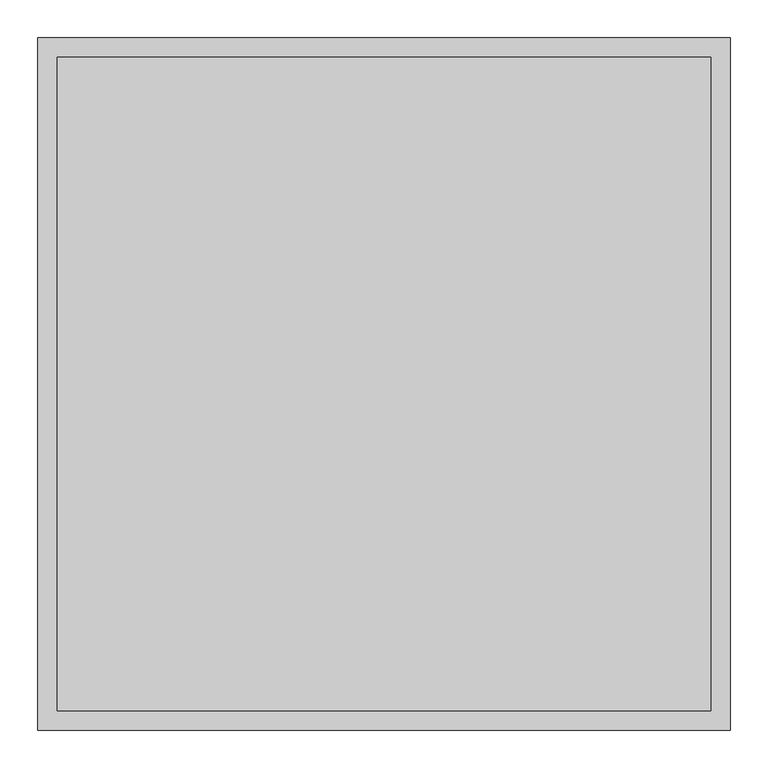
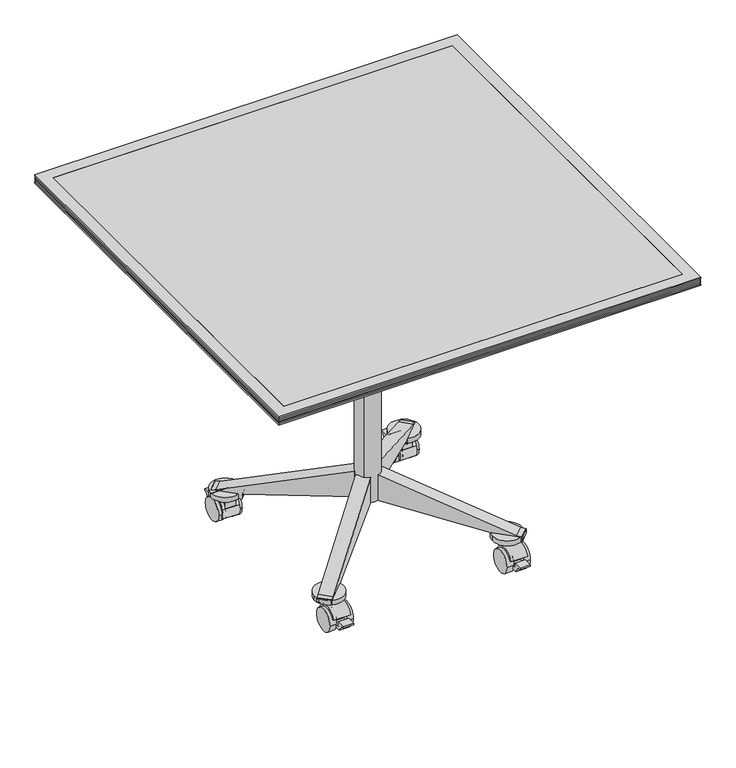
"""IFC4 building model written with IfcOpenShell, lengths in millimetres: furniture geometry, Coalesse_AM_Table_Conference_Ballet_Square : 36L x 36W - Flip/Caster."""

from ifc_helpers import new_model, si_unit, point, frame, frame_2d, origin, place, context, project, spatial, polyline, circle_curve, trimmed, segment, composite_curve, outline, extrude, faceted_brep, source, transform, mapped, element, save


def furniture_f732efc8(model_context):
    return source(origin(), model_context, "Body", "SolidModel", [
        extrude(outline(composite_curve([segment(polyline([(-182.4395783, 14.7931869), (-185.3508649, 16.4051117)]), True, "CONTINUOUS"), segment(trimmed(circle_curve(frame_2d((-208.7663144, 24.9907393)), 24.9398531), [point((-185.3508649, 16.4051117))], [point((-231.2540436, 35.7749086))], True, "CARTESIAN"), True, "CONTINUOUS"), segment(polyline([(-231.2540436, 35.7749086), (-234.6796249, 36.8601197)]), True, "CONTINUOUS"), segment(trimmed(circle_curve(frame_2d((-209.4353674, 26.7032164)), 27.2109394), [point((-234.6796249, 36.8601197))], [point((-197.8152878, 51.3082762))], False, "CARTESIAN"), True, "CONTINUOUS"), segment(trimmed(circle_curve(frame_2d((-207.8788336, 25.8930561)), 27.3351124), [point((-197.8152878, 51.3082762))], [point((-182.4395783, 35.8956886))], False, "CARTESIAN"), True, "CONTINUOUS"), segment(trimmed(circle_curve(frame_2d((-209.2741105, 25.3444377)), 28.8343721), [point((-182.4395783, 35.8956886))], [point((-182.4395783, 14.7931869))], False, "CARTESIAN"), True, "CONTINUOUS")], self_intersect=False)), frame((174.0984431, 0.0, 0.0), z_axis=(1.0, 0.0, 0.0), x_axis=(0.0, 1.0, 0.0)), (0.0, 0.0, 1.0), 36.0286787),
        extrude(outline(composite_curve([segment(trimmed(circle_curve(frame_2d((-208.7663144, 24.9907393)), 24.9398531), [point((-233.7061675, 24.9907393))], [point((-183.8264612, 24.9907393))], False, "CARTESIAN"), True, "CONTINUOUS"), segment(trimmed(circle_curve(frame_2d((-208.7663144, 24.9907393)), 24.9398531), [point((-183.8264612, 24.9907393))], [point((-233.7061675, 24.9907393))], False, "CARTESIAN"), True, "CONTINUOUS")], self_intersect=False)), frame((166.2968952, 0.0, 0.0), z_axis=(1.0, 0.0, 0.0), x_axis=(0.0, 1.0, 0.0)), (0.0, 0.0, 1.0), 14.6120158),
        extrude(outline(composite_curve([segment(polyline([(-197.8152878, 63.5225277), (-182.4395783, 63.5225277), (-182.4395783, 35.8956886)]), True, "CONTINUOUS"), segment(trimmed(circle_curve(frame_2d((-209.2741105, 25.3444377)), 28.8343721), [point((-182.4395783, 35.8956886))], [point((-182.4395783, 14.7931869))], False, "CARTESIAN"), True, "CONTINUOUS"), segment(polyline([(-182.4395783, 14.7931869), (-195.904393, 22.2484025), (-198.9802659, 16.6930892)]), True, "CONTINUOUS"), segment(trimmed(circle_curve(frame_2d((-208.672695, 25.0010719)), 12.7658043), [point((-198.9802659, 16.6930892))], [point((-218.9375545, 17.4117096))], False, "CARTESIAN"), True, "CONTINUOUS"), segment(polyline([(-218.9375545, 17.4117096), (-244.706152, 17.4117096), (-253.6776476, 31.7691038), (-260.4030844, 31.7691038), (-260.4030844, 35.1210973), (-241.3530844, 35.1210973), (-241.3530844, 25.0010719), (-222.0637731, 25.0010719), (-219.8001714, 32.1463658), (-234.6796249, 36.8601197)]), True, "CONTINUOUS"), segment(trimmed(circle_curve(frame_2d((-209.4353674, 26.7032164)), 27.2109394), [point((-234.6796249, 36.8601197))], [point((-197.8152878, 51.3082762))], False, "CARTESIAN"), True, "CONTINUOUS"), segment(polyline([(-197.8152878, 51.3082762), (-197.8152878, 63.5225277)]), True, "CONTINUOUS")], self_intersect=False)), frame((179.2633359, 0.0, 0.0), z_axis=(1.0, 0.0, 0.0), x_axis=(0.0, 1.0, 0.0)), (0.0, 0.0, 1.0), 22.3970625),
        extrude(outline(composite_curve([segment(trimmed(circle_curve(frame_2d((-208.7663144, 24.9907393)), 24.9398531), [point((-233.7061675, 24.9907393))], [point((-183.8264612, 24.9907393))], False, "CARTESIAN"), True, "CONTINUOUS"), segment(trimmed(circle_curve(frame_2d((-208.7663144, 24.9907393)), 24.9398531), [point((-183.8264612, 24.9907393))], [point((-233.7061675, 24.9907393))], False, "CARTESIAN"), True, "CONTINUOUS")], self_intersect=False)), frame((203.3322938, 0.0, 0.0), z_axis=(1.0, 0.0, 0.0), x_axis=(0.0, 1.0, 0.0)), (0.0, 0.0, 1.0), 13.7103424),
        extrude(outline(composite_curve([segment(polyline([(-182.4395783, 14.7931869), (-185.3508649, 16.4051117)]), True, "CONTINUOUS"), segment(trimmed(circle_curve(frame_2d((-208.7663144, 24.9907393)), 24.9398531), [point((-185.3508649, 16.4051117))], [point((-231.2540436, 35.7749086))], True, "CARTESIAN"), True, "CONTINUOUS"), segment(polyline([(-231.2540436, 35.7749086), (-234.6796249, 36.8601197)]), True, "CONTINUOUS"), segment(trimmed(circle_curve(frame_2d((-209.4353674, 26.7032164)), 27.2109394), [point((-234.6796249, 36.8601197))], [point((-197.8152878, 51.3082762))], False, "CARTESIAN"), True, "CONTINUOUS"), segment(trimmed(circle_curve(frame_2d((-207.8788336, 25.8930561)), 27.3351124), [point((-197.8152878, 51.3082762))], [point((-182.4395783, 35.8956886))], False, "CARTESIAN"), True, "CONTINUOUS"), segment(trimmed(circle_curve(frame_2d((-209.2741105, 25.3444377)), 28.8343721), [point((-182.4395783, 35.8956886))], [point((-182.4395783, 14.7931869))], False, "CARTESIAN"), True, "CONTINUOUS")], self_intersect=False)), frame((-209.7070094, 0.0, 0.0), z_axis=(1.0, 0.0, 0.0), x_axis=(0.0, 1.0, 0.0)), (0.0, 0.0, 1.0), 36.86129),
        extrude(outline(composite_curve([segment(trimmed(circle_curve(frame_2d((-208.7663144, 24.9907393)), 24.9398531), [point((-233.7061675, 24.9907393))], [point((-183.8264612, 24.9907393))], False, "CARTESIAN"), True, "CONTINUOUS"), segment(trimmed(circle_curve(frame_2d((-208.7663144, 24.9907393)), 24.9398531), [point((-183.8264612, 24.9907393))], [point((-233.7061675, 24.9907393))], False, "CARTESIAN"), True, "CONTINUOUS")], self_intersect=False)), frame((-180.908911, 0.0, 0.0), z_axis=(1.0, 0.0, 0.0), x_axis=(0.0, 1.0, 0.0)), (0.0, 0.0, 1.0), 14.6120158),
        extrude(outline(composite_curve([segment(polyline([(-197.8152878, 63.5225277), (-182.4395783, 63.5225277), (-182.4395783, 35.8956886)]), True, "CONTINUOUS"), segment(trimmed(circle_curve(frame_2d((-209.2741105, 25.3444377)), 28.8343721), [point((-182.4395783, 35.8956886))], [point((-182.4395783, 14.7931869))], False, "CARTESIAN"), True, "CONTINUOUS"), segment(polyline([(-182.4395783, 14.7931869), (-195.904393, 22.2484025), (-198.9802659, 16.6930892)]), True, "CONTINUOUS"), segment(trimmed(circle_curve(frame_2d((-208.672695, 25.0010719)), 12.7658043), [point((-198.9802659, 16.6930892))], [point((-218.9375545, 17.4117096))], False, "CARTESIAN"), True, "CONTINUOUS"), segment(polyline([(-218.9375545, 17.4117096), (-244.706152, 17.4117096), (-253.6776476, 31.7691038), (-260.4030844, 31.7691038), (-260.4030844, 35.1210973), (-241.3530844, 35.1210973), (-241.3530844, 25.0010719), (-222.0637731, 25.0010719), (-219.8001714, 32.1463658), (-234.6796249, 36.8601197)]), True, "CONTINUOUS"), segment(trimmed(circle_curve(frame_2d((-209.4353674, 26.7032164)), 27.2109394), [point((-234.6796249, 36.8601197))], [point((-197.8152878, 51.3082762))], False, "CARTESIAN"), True, "CONTINUOUS"), segment(polyline([(-197.8152878, 51.3082762), (-197.8152878, 63.5225277)]), True, "CONTINUOUS")], self_intersect=False)), frame((-203.3322938, 0.0, 0.0), z_axis=(1.0, 0.0, 0.0), x_axis=(0.0, 1.0, 0.0)), (0.0, 0.0, 1.0), 22.4233828),
        extrude(outline(composite_curve([segment(trimmed(circle_curve(frame_2d((-208.7663144, 24.9907393)), 24.9398531), [point((-233.7061675, 24.9907393))], [point((-183.8264612, 24.9907393))], False, "CARTESIAN"), True, "CONTINUOUS"), segment(trimmed(circle_curve(frame_2d((-208.7663144, 24.9907393)), 24.9398531), [point((-183.8264612, 24.9907393))], [point((-233.7061675, 24.9907393))], False, "CARTESIAN"), True, "CONTINUOUS")], self_intersect=False)), frame((-217.0426362, 0.0, 0.0), z_axis=(1.0, 0.0, 0.0), x_axis=(0.0, 1.0, 0.0)), (0.0, 0.0, 1.0), 13.7103424),
        extrude(outline(composite_curve([segment(trimmed(circle_curve(frame_2d((1.04e-05, -1.04e-05)), 25.3999999), [point((-17.9605018, -17.9605225))], [point((17.9605225, 17.9605018))], False, "CARTESIAN"), True, "CONTINUOUS"), segment(trimmed(circle_curve(frame_2d((1.04e-05, -1.04e-05)), 25.3999999), [point((17.9605225, 17.9605018))], [point((-17.9605018, -17.9605225))], False, "CARTESIAN"), True, "CONTINUOUS")], self_intersect=False)), frame((0.0, 0.0, 607.6784119), z_axis=(0.0, 0.0, 1.0), x_axis=(1.0, 0.0, 0.0)), (0.0, 0.0, 1.0), 50.3081696),
        extrude(outline(composite_curve([segment(trimmed(circle_curve(frame_2d((209.2741105, 25.3444377)), 28.8343721), [point((182.4395783, 14.7931869))], [point((182.4395783, 35.8956886))], False, "CARTESIAN"), True, "CONTINUOUS"), segment(trimmed(circle_curve(frame_2d((207.8788336, 25.8930561)), 27.3351124), [point((182.4395783, 35.8956886))], [point((197.8152878, 51.3082762))], False, "CARTESIAN"), True, "CONTINUOUS"), segment(trimmed(circle_curve(frame_2d((209.4353674, 26.7032164)), 27.2109394), [point((197.8152878, 51.3082762))], [point((234.6796249, 36.8601197))], False, "CARTESIAN"), True, "CONTINUOUS"), segment(polyline([(234.6796249, 36.8601197), (231.2540436, 35.7749086)]), True, "CONTINUOUS"), segment(trimmed(circle_curve(frame_2d((208.7663144, 24.9907393)), 24.9398531), [point((231.2540436, 35.7749086))], [point((185.3508649, 16.4051117))], True, "CARTESIAN"), True, "CONTINUOUS"), segment(polyline([(185.3508649, 16.4051117), (182.4395783, 14.7931869)]), True, "CONTINUOUS")], self_intersect=False)), frame((174.0984431, 0.0, 0.0), z_axis=(1.0, 0.0, 0.0), x_axis=(0.0, 1.0, 0.0)), (0.0, 0.0, 1.0), 36.0286787),
        extrude(outline(composite_curve([segment(trimmed(circle_curve(frame_2d((208.7663144, 24.9907393)), 24.9398531), [point((233.7061675, 24.9907393))], [point((183.8264612, 24.9907393))], False, "CARTESIAN"), True, "CONTINUOUS"), segment(trimmed(circle_curve(frame_2d((208.7663144, 24.9907393)), 24.9398531), [point((183.8264612, 24.9907393))], [point((233.7061675, 24.9907393))], False, "CARTESIAN"), True, "CONTINUOUS")], self_intersect=False)), frame((166.2968952, 0.0, 0.0), z_axis=(1.0, 0.0, 0.0), x_axis=(0.0, 1.0, 0.0)), (0.0, 0.0, 1.0), 14.6120158),
        extrude(outline(composite_curve([segment(polyline([(197.8152878, 63.5225277), (197.8152878, 51.3082762)]), True, "CONTINUOUS"), segment(trimmed(circle_curve(frame_2d((209.4353674, 26.7032164)), 27.2109394), [point((197.8152878, 51.3082762))], [point((234.6796249, 36.8601197))], False, "CARTESIAN"), True, "CONTINUOUS"), segment(polyline([(234.6796249, 36.8601197), (219.8001714, 32.1463658), (222.0637731, 25.0010719), (241.3530844, 25.0010719), (241.3530844, 35.1210973), (260.4030844, 35.1210973), (260.4030844, 31.7691038), (253.6776476, 31.7691038), (244.706152, 17.4117096), (218.9375545, 17.4117096)]), True, "CONTINUOUS"), segment(trimmed(circle_curve(frame_2d((208.672695, 25.0010719)), 12.7658043), [point((218.9375545, 17.4117096))], [point((198.9802659, 16.6930892))], False, "CARTESIAN"), True, "CONTINUOUS"), segment(polyline([(198.9802659, 16.6930892), (195.904393, 22.2484025), (182.4395783, 14.7931869)]), True, "CONTINUOUS"), segment(trimmed(circle_curve(frame_2d((209.2741105, 25.3444377)), 28.8343721), [point((182.4395783, 14.7931869))], [point((182.4395783, 35.8956886))], False, "CARTESIAN"), True, "CONTINUOUS"), segment(polyline([(182.4395783, 35.8956886), (182.4395783, 63.5225277), (197.8152878, 63.5225277)]), True, "CONTINUOUS")], self_intersect=False)), frame((179.2633359, 0.0, 0.0), z_axis=(1.0, 0.0, 0.0), x_axis=(0.0, 1.0, 0.0)), (0.0, 0.0, 1.0), 22.3970625),
        extrude(outline(composite_curve([segment(trimmed(circle_curve(frame_2d((208.7663144, 24.9907393)), 24.9398531), [point((233.7061675, 24.9907393))], [point((183.8264612, 24.9907393))], False, "CARTESIAN"), True, "CONTINUOUS"), segment(trimmed(circle_curve(frame_2d((208.7663144, 24.9907393)), 24.9398531), [point((183.8264612, 24.9907393))], [point((233.7061675, 24.9907393))], False, "CARTESIAN"), True, "CONTINUOUS")], self_intersect=False)), frame((203.3322938, 0.0, 0.0), z_axis=(1.0, 0.0, 0.0), x_axis=(0.0, 1.0, 0.0)), (0.0, 0.0, 1.0), 13.7103424),
        extrude(outline(composite_curve([segment(trimmed(circle_curve(frame_2d((209.2741105, 25.3444377)), 28.8343721), [point((182.4395783, 14.7931869))], [point((182.4395783, 35.8956886))], False, "CARTESIAN"), True, "CONTINUOUS"), segment(trimmed(circle_curve(frame_2d((207.8788336, 25.8930561)), 27.3351124), [point((182.4395783, 35.8956886))], [point((197.8152878, 51.3082762))], False, "CARTESIAN"), True, "CONTINUOUS"), segment(trimmed(circle_curve(frame_2d((209.4353674, 26.7032164)), 27.2109394), [point((197.8152878, 51.3082762))], [point((234.6796249, 36.8601197))], False, "CARTESIAN"), True, "CONTINUOUS"), segment(polyline([(234.6796249, 36.8601197), (231.2540436, 35.7749086)]), True, "CONTINUOUS"), segment(trimmed(circle_curve(frame_2d((208.7663144, 24.9907393)), 24.9398531), [point((231.2540436, 35.7749086))], [point((185.3508649, 16.4051117))], True, "CARTESIAN"), True, "CONTINUOUS"), segment(polyline([(185.3508649, 16.4051117), (182.4395783, 14.7931869)]), True, "CONTINUOUS")], self_intersect=False)), frame((-209.7070094, 0.0, 0.0), z_axis=(1.0, 0.0, 0.0), x_axis=(0.0, 1.0, 0.0)), (0.0, 0.0, 1.0), 36.86129),
        extrude(outline(composite_curve([segment(trimmed(circle_curve(frame_2d((208.7663144, 24.9907393)), 24.9398531), [point((233.7061675, 24.9907393))], [point((183.8264612, 24.9907393))], False, "CARTESIAN"), True, "CONTINUOUS"), segment(trimmed(circle_curve(frame_2d((208.7663144, 24.9907393)), 24.9398531), [point((183.8264612, 24.9907393))], [point((233.7061675, 24.9907393))], False, "CARTESIAN"), True, "CONTINUOUS")], self_intersect=False)), frame((-180.908911, 0.0, 0.0), z_axis=(1.0, 0.0, 0.0), x_axis=(0.0, 1.0, 0.0)), (0.0, 0.0, 1.0), 14.6120158),
        extrude(outline(composite_curve([segment(polyline([(197.8152878, 63.5225277), (197.8152878, 51.3082762)]), True, "CONTINUOUS"), segment(trimmed(circle_curve(frame_2d((209.4353674, 26.7032164)), 27.2109394), [point((197.8152878, 51.3082762))], [point((234.6796249, 36.8601197))], False, "CARTESIAN"), True, "CONTINUOUS"), segment(polyline([(234.6796249, 36.8601197), (219.8001714, 32.1463658), (222.0637731, 25.0010719), (241.3530844, 25.0010719), (241.3530844, 35.1210973), (260.4030844, 35.1210973), (260.4030844, 31.7691038), (253.6776476, 31.7691038), (244.706152, 17.4117096), (218.9375545, 17.4117096)]), True, "CONTINUOUS"), segment(trimmed(circle_curve(frame_2d((208.672695, 25.0010719)), 12.7658043), [point((218.9375545, 17.4117096))], [point((198.9802659, 16.6930892))], False, "CARTESIAN"), True, "CONTINUOUS"), segment(polyline([(198.9802659, 16.6930892), (195.904393, 22.2484025), (182.4395783, 14.7931869)]), True, "CONTINUOUS"), segment(trimmed(circle_curve(frame_2d((209.2741105, 25.3444377)), 28.8343721), [point((182.4395783, 14.7931869))], [point((182.4395783, 35.8956886))], False, "CARTESIAN"), True, "CONTINUOUS"), segment(polyline([(182.4395783, 35.8956886), (182.4395783, 63.5225277), (197.8152878, 63.5225277)]), True, "CONTINUOUS")], self_intersect=False)), frame((-203.3322938, 0.0, 0.0), z_axis=(1.0, 0.0, 0.0), x_axis=(0.0, 1.0, 0.0)), (0.0, 0.0, 1.0), 22.4233828),
        extrude(outline(composite_curve([segment(trimmed(circle_curve(frame_2d((208.7663144, 24.9907393)), 24.9398531), [point((233.7061675, 24.9907393))], [point((183.8264612, 24.9907393))], False, "CARTESIAN"), True, "CONTINUOUS"), segment(trimmed(circle_curve(frame_2d((208.7663144, 24.9907393)), 24.9398531), [point((183.8264612, 24.9907393))], [point((233.7061675, 24.9907393))], False, "CARTESIAN"), True, "CONTINUOUS")], self_intersect=False)), frame((-217.0426362, 0.0, 0.0), z_axis=(1.0, 0.0, 0.0), x_axis=(0.0, 1.0, 0.0)), (0.0, 0.0, 1.0), 13.7103424),
        extrude(outline(polyline([(158.4621346, 17.0356733), (169.8930132, 8.1048922), (169.8930132, 0.8331186), (159.98106, -9.0788345), (38.5409959, -9.0788345), (28.462086, 1.0000754), (28.462086, 7.6856478), (37.8121114, 17.0356733), (158.4621346, 17.0356733)])), frame((0.0, 0.0, 687.2912849), z_axis=(0.0, 0.0, 1.0), x_axis=(1.0, 0.0, 0.0)), (0.0, 0.0, 1.0), 6.5168503),
        extrude(outline(composite_curve([segment(trimmed(circle_curve(frame_2d((669.1002966, -84.2761543)), 7.8975043), [point((669.1002966, -92.1736586))], [point((669.1002966, -76.3786501))], False, "CARTESIAN"), True, "CONTINUOUS"), segment(trimmed(circle_curve(frame_2d((669.1002966, -84.2761543)), 7.8975043), [point((669.1002966, -76.3786501))], [point((669.1002966, -92.1736586))], False, "CARTESIAN"), True, "CONTINUOUS")], self_intersect=False)), frame((0.0, -102.0227757, 0.0), z_axis=(0.0, 1.0, 0.0), x_axis=(0.0, 0.0, 1.0)), (0.0, 0.0, 1.0), 207.3263413),
        extrude(outline(polyline([(77.1619615, -102.0227757), (72.7168839, -102.0227757), (72.7168839, 105.3035655), (77.1619615, 105.3035655), (77.1619615, -102.0227757)])), frame((0.0, 0.0, 657.9865814), z_axis=(0.0, 0.0, 1.0), x_axis=(1.0, 0.0, 0.0)), (0.0, 0.0, 1.0), 25.6753708),
        extrude(outline(polyline([(105.3035655, 652.7037643), (101.8153095, 652.7037643), (101.8153095, 700.0114872), (-94.3997971, 700.0114872), (-94.3997971, 652.7037643), (-97.8879563, 652.7037643), (-97.8879563, 704.85), (105.3035655, 704.85), (105.3035655, 652.7037643)])), frame((-111.7977681, 0.0, 0.0), z_axis=(1.0, 0.0, 0.0), x_axis=(0.0, 1.0, 0.0)), (0.0, 0.0, 1.0), 220.3746008),
        extrude(outline(polyline([(-91.8596905, 688.7419716), (99.2752998, 688.7419716), (99.2752998, 652.7037643), (94.1954742, 652.7037643), (94.1954742, 683.6619522), (-86.7795016, 683.6619522), (-86.7795016, 652.7037643), (-91.8596905, 652.7037643), (-91.8596905, 688.7419716)])), frame((-111.7977681, 0.0, 0.0), z_axis=(1.0, 0.0, 0.0), x_axis=(0.0, 1.0, 0.0)), (0.0, 0.0, 1.0), 220.3746008),
        extrude(outline(composite_curve([segment(trimmed(circle_curve(frame_2d((-194.715793, 197.3207687)), 31.75), [point((-226.465793, 197.3207687))], [point((-162.965793, 197.3207687))], False, "CARTESIAN"), True, "CONTINUOUS"), segment(trimmed(circle_curve(frame_2d((-194.715793, 197.3207687)), 31.75), [point((-162.965793, 197.3207687))], [point((-226.465793, 197.3207687))], False, "CARTESIAN"), True, "CONTINUOUS")], self_intersect=False)), frame((0.0, 0.0, 62.0397209), z_axis=(0.0, 0.0, 1.0), x_axis=(1.0, 0.0, 0.0)), (0.0, 0.0, 1.0), 10.7840801),
        extrude(outline(composite_curve([segment(trimmed(circle_curve(frame_2d((191.7194605, 196.5270187)), 31.75), [point((159.9694605, 196.5270187))], [point((223.4694605, 196.5270187))], False, "CARTESIAN"), True, "CONTINUOUS"), segment(trimmed(circle_curve(frame_2d((191.7194605, 196.5270187)), 31.75), [point((223.4694605, 196.5270187))], [point((159.9694605, 196.5270187))], False, "CARTESIAN"), True, "CONTINUOUS")], self_intersect=False)), frame((0.0, 0.0, 62.0397209), z_axis=(0.0, 0.0, 1.0), x_axis=(1.0, 0.0, 0.0)), (0.0, 0.0, 1.0), 10.7840801),
        extrude(outline(composite_curve([segment(trimmed(circle_curve(frame_2d((-194.715793, -191.2787692)), 31.75), [point((-226.465793, -191.2787692))], [point((-162.965793, -191.2787692))], False, "CARTESIAN"), True, "CONTINUOUS"), segment(trimmed(circle_curve(frame_2d((-194.715793, -191.2787692)), 31.75), [point((-162.965793, -191.2787692))], [point((-226.465793, -191.2787692))], False, "CARTESIAN"), True, "CONTINUOUS")], self_intersect=False)), frame((0.0, 0.0, 62.0397209), z_axis=(0.0, 0.0, 1.0), x_axis=(1.0, 0.0, 0.0)), (0.0, 0.0, 1.0), 10.7840801),
        extrude(outline(composite_curve([segment(trimmed(circle_curve(frame_2d((191.7194605, -190.4850192)), 31.75), [point((159.9694605, -190.4850192))], [point((223.4694605, -190.4850192))], False, "CARTESIAN"), True, "CONTINUOUS"), segment(trimmed(circle_curve(frame_2d((191.7194605, -190.4850192)), 31.75), [point((223.4694605, -190.4850192))], [point((159.9694605, -190.4850192))], False, "CARTESIAN"), True, "CONTINUOUS")], self_intersect=False)), frame((0.0, 0.0, 62.0397209), z_axis=(0.0, 0.0, 1.0), x_axis=(1.0, 0.0, 0.0)), (0.0, 0.0, 1.0), 10.7840801),
        extrude(outline(composite_curve([segment(polyline([(-57.749273, 0.0), (0.0, 0.0), (-90.9931074, -269.8641919), (-92.3030079, -279.1846177)]), True, "CONTINUOUS"), segment(trimmed(circle_curve(frame_2d((-93.9206951, -278.9572666)), 1.6335852), [point((-92.3030079, -279.1846177))], [point((-93.8206014, -280.5877823))], False, "CARTESIAN"), True, "CONTINUOUS"), segment(trimmed(circle_curve(frame_2d((-95.8523928, -247.4901147)), 33.1599725), [point((-93.8206014, -280.5877823))], [point((-101.682402, -280.1335639))], False, "CARTESIAN"), True, "CONTINUOUS"), segment(trimmed(circle_curve(frame_2d((-101.2796868, -277.8786768)), 2.2905666), [point((-101.682402, -280.1335639))], [point((-103.5674671, -277.7657306))], False, "CARTESIAN"), True, "CONTINUOUS"), segment(polyline([(-103.5674671, -277.7657306), (-103.5674671, -222.4322812)]), True, "CONTINUOUS"), segment(trimmed(circle_curve(frame_2d((-100.6154331, -221.9840334)), 2.9858719), [point((-103.5674671, -222.4322812))], [point((-100.2998684, -219.0148838))], False, "CARTESIAN"), True, "CONTINUOUS"), segment(trimmed(circle_curve(frame_2d((-98.3053249, -200.2482144)), 18.872363), [point((-100.2998684, -219.0148838))], [point((-94.5016021, -218.7332835))], True, "CARTESIAN"), True, "CONTINUOUS"), segment(trimmed(circle_curve(frame_2d((-95.1495986, -215.5841949)), 3.2150673), [point((-94.5016021, -218.7332835))], [point((-91.9741141, -216.0871422))], True, "CARTESIAN"), True, "CONTINUOUS"), segment(polyline([(-91.9741141, -216.0871422), (-57.749273, 0.0)]), True, "CONTINUOUS")], self_intersect=False)), frame((-23.5273141, 7.7834997, 165.607188), z_axis=(0.7071067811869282, 0.707106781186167, 0.0), x_axis=(0.0, 0.0, 1.0)), (0.0, 0.0, 1.0), 29.2174476),
        extrude(outline(composite_curve([segment(polyline([(-57.749273, 44.2801775), (-91.9741141, 260.3673198)]), True, "CONTINUOUS"), segment(trimmed(circle_curve(frame_2d((-95.1495986, 259.8643724)), 3.2150673), [point((-91.9741141, 260.3673198))], [point((-94.5016021, 263.013461))], True, "CARTESIAN"), True, "CONTINUOUS"), segment(trimmed(circle_curve(frame_2d((-98.3053249, 244.5283919)), 18.872363), [point((-94.5016021, 263.013461))], [point((-100.2998684, 263.2950613))], True, "CARTESIAN"), True, "CONTINUOUS"), segment(trimmed(circle_curve(frame_2d((-100.6154331, 266.2642109)), 2.9858719), [point((-100.2998684, 263.2950613))], [point((-103.5674671, 266.7124587))], False, "CARTESIAN"), True, "CONTINUOUS"), segment(polyline([(-103.5674671, 266.7124587), (-103.5674671, 322.0459081)]), True, "CONTINUOUS"), segment(trimmed(circle_curve(frame_2d((-101.2796868, 322.1588543)), 2.2905666), [point((-103.5674671, 322.0459081))], [point((-101.682402, 324.4137415))], False, "CARTESIAN"), True, "CONTINUOUS"), segment(trimmed(circle_curve(frame_2d((-95.8523928, 291.7702923)), 33.1599725), [point((-101.682402, 324.4137415))], [point((-93.8206014, 324.8679598))], False, "CARTESIAN"), True, "CONTINUOUS"), segment(trimmed(circle_curve(frame_2d((-93.9206951, 323.2374442)), 1.6335852), [point((-93.8206014, 324.8679598))], [point((-92.3030079, 323.4647953))], False, "CARTESIAN"), True, "CONTINUOUS"), segment(polyline([(-92.3030079, 323.4647953), (-90.9931074, 314.1443694), (0.0, 44.2801775), (-57.749273, 44.2801775)]), True, "CONTINUOUS")], self_intersect=False)), frame((-23.5273141, 7.7834997, 165.607188), z_axis=(0.7071067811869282, 0.707106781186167, 0.0), x_axis=(0.0, 0.0, 1.0)), (0.0, 0.0, 1.0), 29.2174476),
        extrude(outline(composite_curve([segment(polyline([(-57.749273, 0.0), (0.0, 0.0), (-90.9931074, -269.8641919), (-92.3030079, -279.1846177)]), True, "CONTINUOUS"), segment(trimmed(circle_curve(frame_2d((-93.9206951, -278.9572666)), 1.6335852), [point((-92.3030079, -279.1846177))], [point((-93.8206014, -280.5877823))], False, "CARTESIAN"), True, "CONTINUOUS"), segment(trimmed(circle_curve(frame_2d((-95.8523928, -247.4901147)), 33.1599725), [point((-93.8206014, -280.5877823))], [point((-101.682402, -280.1335639))], False, "CARTESIAN"), True, "CONTINUOUS"), segment(trimmed(circle_curve(frame_2d((-101.2796868, -277.8786768)), 2.2905666), [point((-101.682402, -280.1335639))], [point((-103.5674671, -277.7657306))], False, "CARTESIAN"), True, "CONTINUOUS"), segment(polyline([(-103.5674671, -277.7657306), (-103.5674671, -222.4322812)]), True, "CONTINUOUS"), segment(trimmed(circle_curve(frame_2d((-100.6154331, -221.9840334)), 2.9858719), [point((-103.5674671, -222.4322812))], [point((-100.2998684, -219.0148838))], False, "CARTESIAN"), True, "CONTINUOUS"), segment(trimmed(circle_curve(frame_2d((-98.3053249, -200.2482144)), 18.872363), [point((-100.2998684, -219.0148838))], [point((-94.5016021, -218.7332835))], True, "CARTESIAN"), True, "CONTINUOUS"), segment(trimmed(circle_curve(frame_2d((-95.1495986, -215.5841949)), 3.2150673), [point((-94.5016021, -218.7332835))], [point((-91.9741141, -216.0871422))], True, "CARTESIAN"), True, "CONTINUOUS"), segment(polyline([(-91.9741141, -216.0871422), (-57.749273, 0.0)]), True, "CONTINUOUS")], self_intersect=False)), frame((-7.7834997, -23.5273141, 165.607188), z_axis=(-0.7071067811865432, 0.7071067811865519, 0.0), x_axis=(0.0, 0.0, 1.0)), (0.0, 0.0, 1.0), 29.2174476),
        extrude(outline(composite_curve([segment(polyline([(-57.749273, 44.2801775), (-91.9741141, 260.3673198)]), True, "CONTINUOUS"), segment(trimmed(circle_curve(frame_2d((-95.1495986, 259.8643724)), 3.2150673), [point((-91.9741141, 260.3673198))], [point((-94.5016021, 263.013461))], True, "CARTESIAN"), True, "CONTINUOUS"), segment(trimmed(circle_curve(frame_2d((-98.3053249, 244.5283919)), 18.872363), [point((-94.5016021, 263.013461))], [point((-100.2998684, 263.2950613))], True, "CARTESIAN"), True, "CONTINUOUS"), segment(trimmed(circle_curve(frame_2d((-100.6154331, 266.2642109)), 2.9858719), [point((-100.2998684, 263.2950613))], [point((-103.5674671, 266.7124587))], False, "CARTESIAN"), True, "CONTINUOUS"), segment(polyline([(-103.5674671, 266.7124587), (-103.5674671, 322.0459081)]), True, "CONTINUOUS"), segment(trimmed(circle_curve(frame_2d((-101.2796868, 322.1588543)), 2.2905666), [point((-103.5674671, 322.0459081))], [point((-101.682402, 324.4137415))], False, "CARTESIAN"), True, "CONTINUOUS"), segment(trimmed(circle_curve(frame_2d((-95.8523928, 291.7702923)), 33.1599725), [point((-101.682402, 324.4137415))], [point((-93.8206014, 324.8679598))], False, "CARTESIAN"), True, "CONTINUOUS"), segment(trimmed(circle_curve(frame_2d((-93.9206951, 323.2374442)), 1.6335852), [point((-93.8206014, 324.8679598))], [point((-92.3030079, 323.4647953))], False, "CARTESIAN"), True, "CONTINUOUS"), segment(polyline([(-92.3030079, 323.4647953), (-90.9931074, 314.1443694), (0.0, 44.2801775), (-57.749273, 44.2801775)]), True, "CONTINUOUS")], self_intersect=False)), frame((-7.7834997, -23.5273141, 165.607188), z_axis=(-0.7071067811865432, 0.7071067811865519, 0.0), x_axis=(0.0, 0.0, 1.0)), (0.0, 0.0, 1.0), 29.2174476),
        extrude(outline(composite_curve([segment(trimmed(circle_curve(frame_2d((1.04e-05, -1.04e-05)), 25.3999999), [point((-17.9605018, -17.9605225))], [point((17.9605225, 17.9605018))], False, "CARTESIAN"), True, "CONTINUOUS"), segment(trimmed(circle_curve(frame_2d((1.04e-05, -1.04e-05)), 25.3999999), [point((17.9605225, 17.9605018))], [point((-17.9605018, -17.9605225))], False, "CARTESIAN"), True, "CONTINUOUS")], self_intersect=False)), frame((0.0, 0.0, 107.857915), z_axis=(0.0, 0.0, 1.0), x_axis=(1.0, 0.0, 0.0)), (0.0, 0.0, 1.0), 499.8204968),
        faceted_brep([(-457.2003633, 457.2, 704.85), (-431.8003876, 431.8000242, 698.5000242), (-431.8003876, -431.7999516, 698.5000242), (-457.2003633, -457.1999273, 704.85), (-457.2003633, 457.2, 708.0250242), (-457.2003633, -457.1999273, 708.0250242), (-454.0253755, 454.0250121, 709.6125), (-454.0253755, -454.0249394, 709.6125), (-457.2003633, 457.2, 711.1999758), (-457.2003633, -457.1999273, 711.1999758), (-454.0253755, 454.0250121, 712.7875242), (-454.0253755, -454.0249394, 712.7875242), (-457.2003633, 457.2, 714.375), (-457.2003633, -457.1999273, 714.375), (-454.0253755, 454.0250121, 715.9624758), (-454.0253755, -454.0249394, 715.9624758), (-457.2003633, 457.2, 717.5500242), (-457.2003633, -457.1999273, 717.5500242), (-454.0253755, 454.0250121, 719.1375), (-454.0253755, -454.0249394, 719.1375), (-457.2003633, 457.2, 720.7249758), (-457.2003633, -457.1999273, 720.7249758), (-457.2003633, 457.2, 723.9), (-457.2003633, -457.1999273, 723.9), (-431.8003876, 431.8000242, 723.9), (-431.8003876, -431.7999516, 723.9), (431.7998062, -431.7999516, 698.5000242), (457.199782, -457.1999273, 704.85), (457.199782, -457.1999273, 708.0250242), (454.0247941, -454.0249394, 709.6125), (457.199782, -457.1999273, 711.1999758), (454.0247941, -454.0249394, 712.7875242), (457.199782, -457.1999273, 714.375), (454.0247941, -454.0249394, 715.9624758), (457.199782, -457.1999273, 717.5500242), (454.0247941, -454.0249394, 719.1375), (457.199782, -457.1999273, 720.7249758), (457.199782, -457.1999273, 723.9), (431.7998062, -431.7999516, 723.9), (431.7998062, 431.8000242, 698.5000242), (457.199782, 457.2, 704.85), (457.199782, 457.2, 708.0250242), (454.0247941, 454.0250121, 709.6125), (457.199782, 457.2, 711.1999758), (454.0247941, 454.0250121, 712.7875242), (457.199782, 457.2, 714.375), (454.0247941, 454.0250121, 715.9624758), (457.199782, 457.2, 717.5500242), (454.0247941, 454.0250121, 719.1375), (457.199782, 457.2, 720.7249758), (457.199782, 457.2, 723.9), (431.7998062, 431.8000242, 723.9)], [[[0, 1, 2, 3]], [[4, 0, 3, 5]], [[6, 4, 5, 7]], [[8, 6, 7, 9]], [[10, 8, 9, 11]], [[12, 10, 11, 13]], [[14, 12, 13, 15]], [[16, 14, 15, 17]], [[18, 16, 17, 19]], [[20, 18, 19, 21]], [[22, 20, 21, 23]], [[1, 24, 25, 2]], [[3, 2, 26, 27]], [[5, 3, 27, 28]], [[7, 5, 28, 29]], [[9, 7, 29, 30]], [[11, 9, 30, 31]], [[13, 11, 31, 32]], [[15, 13, 32, 33]], [[17, 15, 33, 34]], [[19, 17, 34, 35]], [[21, 19, 35, 36]], [[23, 21, 36, 37]], [[2, 25, 38, 26]], [[27, 26, 39, 40]], [[28, 27, 40, 41]], [[29, 28, 41, 42]], [[30, 29, 42, 43]], [[31, 30, 43, 44]], [[32, 31, 44, 45]], [[33, 32, 45, 46]], [[34, 33, 46, 47]], [[35, 34, 47, 48]], [[36, 35, 48, 49]], [[37, 36, 49, 50]], [[26, 38, 51, 39]], [[40, 39, 1, 0]], [[41, 40, 0, 4]], [[42, 41, 4, 6]], [[43, 42, 6, 8]], [[44, 43, 8, 10]], [[45, 44, 10, 12]], [[46, 45, 12, 14]], [[47, 46, 14, 16]], [[48, 47, 16, 18]], [[49, 48, 18, 20]], [[50, 49, 20, 22]], [[23, 37, 50, 22], [24, 51, 38, 25]], [[39, 51, 24, 1]]]),
        extrude(outline(polyline([(431.7998062, 431.8000242), (431.7998062, -431.7999516), (-431.8003876, -431.7999516), (-431.8003876, 431.8000242), (431.7998062, 431.8000242)])), frame((0.0, 0.0, 704.85), z_axis=(0.0, 0.0, 1.0), x_axis=(1.0, 0.0, 0.0)), (0.0, 0.0, 1.0), 19.05),
    ])


if __name__ == "__main__":
    model = new_model("IFC4")
    model_context = context("Model", 3, world=origin())
    ifc_project = project(units=[si_unit("LENGTHUNIT", "METRE", prefix="MILLI")], contexts=[model_context])
    site = spatial("IfcSite", under=ifc_project)
    building = spatial("IfcBuilding", under=site)
    placement = place(None, origin())
    furniture_shape = furniture_f732efc8(model_context)
    element("IfcFurniture", 1, ObjectType="Coalesse_AM_Table_Conference_Ballet_Square : 36L x 36W - Flip/Caster", at=placement, inside=building, context=model_context, shape_type="MappedRepresentation", body=[
        mapped(furniture_shape, transform((0.0, 0.0, 0.0), x_axis=(1.0, 0.0, 0.0), y_axis=(0.0, 1.0, 0.0), z_axis=(0.0, 0.0, 1.0))),
    ])
    save(model, "model.ifc")
